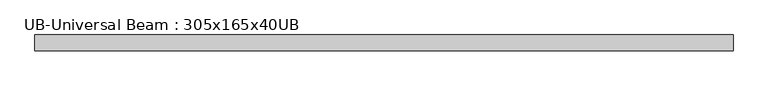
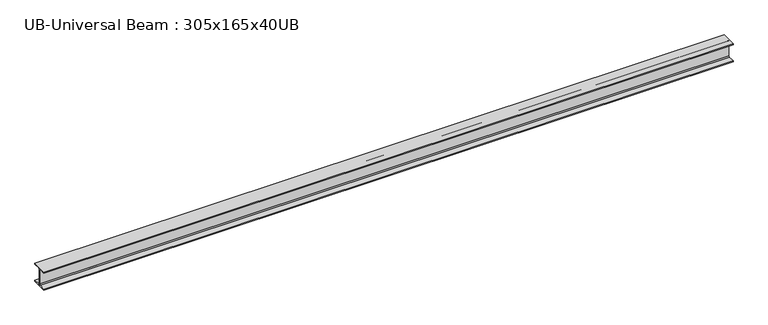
"""IFC4 building model written with IfcOpenShell, lengths in millimetres: beam geometry, UB-Universal Beam : 305x165x40UB."""

from ifc_helpers import new_model, si_unit, point, frame, frame_2d, origin, place, context, project, spatial, polyline, circle_curve, trimmed, segment, composite_curve, outline, extrude, source, transform, mapped, element, save


def ub_universal_beam_305x165x40ub_3905f666(model_context):
    return source(origin(), model_context, "Body", "SweptSolid", [
        extrude(outline(composite_curve([segment(polyline([(82.5, -89.8), (82.5, -100.0), (-82.5, -100.0), (-82.5, -89.8), (-11.9, -89.8)]), True, "CONTINUOUS"), segment(trimmed(circle_curve(frame_2d((-11.9, -80.9)), 8.9), [point((-11.9, -89.8))], [point((-3.0, -80.9))], True, "CARTESIAN"), True, "CONTINUOUS"), segment(polyline([(-3.0, -80.9), (-3.0, 80.9)]), True, "CONTINUOUS"), segment(trimmed(circle_curve(frame_2d((-11.9, 80.9)), 8.9), [point((-3.0, 80.9))], [point((-11.9, 89.8))], True, "CARTESIAN"), True, "CONTINUOUS"), segment(polyline([(-11.9, 89.8), (-82.5, 89.8), (-82.5, 100.0), (82.5, 100.0), (82.5, 89.8), (11.9, 89.8)]), True, "CONTINUOUS"), segment(trimmed(circle_curve(frame_2d((11.9, 80.9)), 8.9), [point((11.9, 89.8))], [point((3.0, 80.9))], True, "CARTESIAN"), True, "CONTINUOUS"), segment(polyline([(3.0, 80.9), (3.0, -80.9)]), True, "CONTINUOUS"), segment(trimmed(circle_curve(frame_2d((11.9, -80.9)), 8.9), [point((3.0, -80.9))], [point((11.9, -89.8))], True, "CARTESIAN"), True, "CONTINUOUS"), segment(polyline([(11.9, -89.8), (82.5, -89.8)]), True, "CONTINUOUS")], self_intersect=False)), frame((-3784.425, 0.0, 0.0), z_axis=(1.0, 0.0, 0.0), x_axis=(0.0, 1.0, 0.0)), (0.0, 0.0, 1.0), 7268.85),
    ])


if __name__ == "__main__":
    model = new_model("IFC4")
    model_context = context("Model", 3, world=origin())
    ifc_project = project(units=[si_unit("LENGTHUNIT", "METRE", prefix="MILLI")], contexts=[model_context])
    site = spatial("IfcSite", under=ifc_project)
    building = spatial("IfcBuilding", under=site)
    placement = place(None, origin())
    ub_universal_beam_305x165x40ub_shape = ub_universal_beam_305x165x40ub_3905f666(model_context)
    element("IfcBeam", 1, ObjectType="UB-Universal Beam : 305x165x40UB", at=placement, inside=building, context=model_context, shape_type="MappedRepresentation", body=[
        mapped(ub_universal_beam_305x165x40ub_shape, transform((0.0, 0.0, 0.0), x_axis=(1.0, 0.0, 0.0), y_axis=(0.0, 1.0, 0.0), z_axis=(0.0, 0.0, 1.0))),
    ])
    save(model, "model.ifc")
